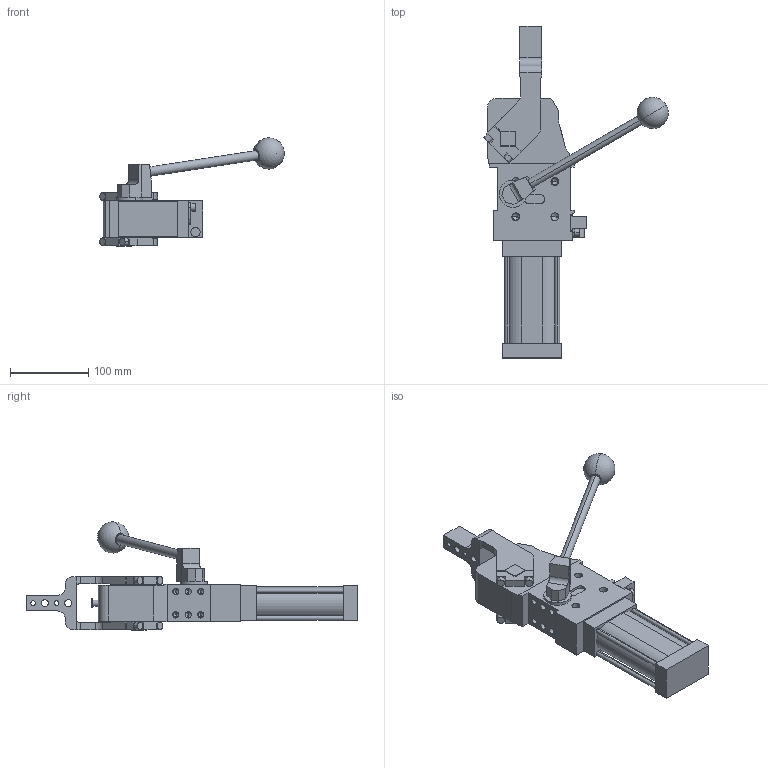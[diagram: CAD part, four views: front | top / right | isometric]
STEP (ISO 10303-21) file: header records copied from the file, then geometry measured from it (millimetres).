
FILE_DESCRIPTION (( 'STEP AP214' ), '1' );
FILE_NAME ('cplm50lah1csi1g_75.STEP', '2023-01-26T13:16:37', ( '' ), ( '' ), 'SwSTEP 2.0', 'SolidWorks 2022', '' );
FILE_SCHEMA (( 'AUTOMOTIVE_DESIGN' ));
Length unit declared in the file: millimetre
Products named in the file (5): blocchetto_VEP_0; cplm50lah1csi1g_75; meccanica_cplm_50; comando_manuale_cplm_50; leva_cx_offset_15_cpl50
Assembly tree (4 placements, depth 2):
  cplm50lah1csi1g_75
    meccanica_cplm_50
    blocchetto_VEP_0
    leva_cx_offset_15_cpl50
    comando_manuale_cplm_50
Bounding box: 236.03 x 424.5 x 138.5 mm (x, y, z)
Volume: 1459795.2 mm3; surface area: 180083.6 mm2
Topology: 4 solids, 4 shells, 431 faces, 1108 edges, 691 vertices
Faces by surface type: plane 212, cylinder 167, cone 50, sphere 2
Entity records: 14373 total; most frequent: DIRECTION 2287, CARTESIAN_POINT 2253, ORIENTED_EDGE 2114, EDGE_CURVE 1057, AXIS2_PLACEMENT_3D 796, VECTOR 695, LINE 695, VERTEX_POINT 688
